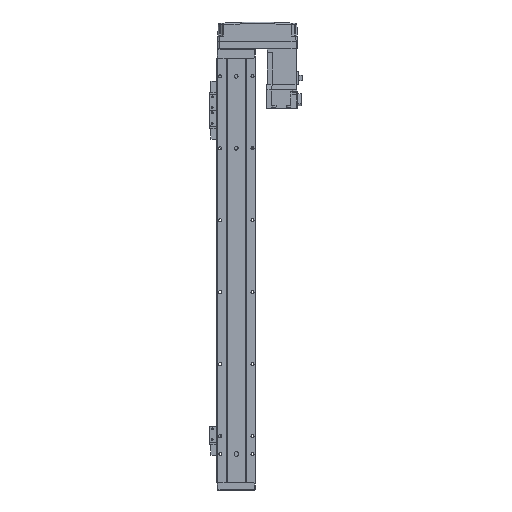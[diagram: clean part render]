
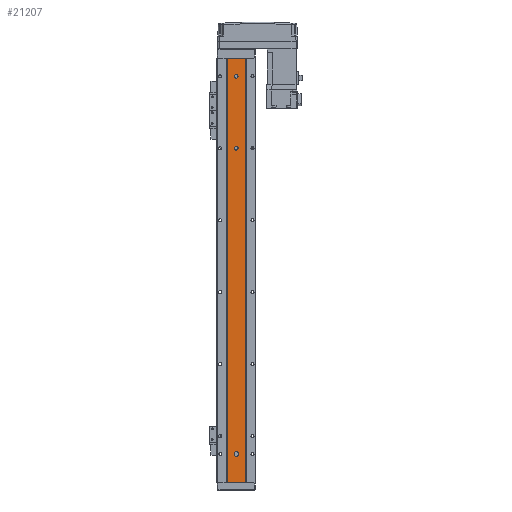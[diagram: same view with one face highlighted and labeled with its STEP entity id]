
A CAD part, front view. The second image highlights one B-rep face of the part: STEP entity #21207.
In plain terms, the highlighted planar face has unit normal (0, -1, 0).
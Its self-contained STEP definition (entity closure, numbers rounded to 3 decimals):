
#208 = CIRCLE ( 'NONE', #18674, 2.5 ) ;
#261 = ORIENTED_EDGE ( 'NONE', *, *, #20109, .F. ) ;
#453 = EDGE_LOOP ( 'NONE', ( #8826, #8861 ) ) ;
#1307 = VECTOR ( 'NONE', #26242, 1000. ) ;
#1444 = DIRECTION ( 'NONE',  ( 0., -1., 0. ) ) ;
#2133 = EDGE_CURVE ( 'NONE', #33654, #14683, #208, .T. ) ;
#2318 = DIRECTION ( 'NONE',  ( 1., 0., 0. ) ) ;
#2450 = DIRECTION ( 'NONE',  ( 1., 0., 0. ) ) ;
#2522 = CARTESIAN_POINT ( 'NONE',  ( 2.5, 1.5, -551. ) ) ;
#2628 = CIRCLE ( 'NONE', #4119, 2.5 ) ;
#3648 = VECTOR ( 'NONE', #5215, 1000. ) ;
#3676 = CARTESIAN_POINT ( 'NONE',  ( -12.293, 1.5, -590. ) ) ;
#4119 = AXIS2_PLACEMENT_3D ( 'NONE', #12793, #1444, #10222 ) ;
#4561 = VERTEX_POINT ( 'NONE', #16883 ) ;
#4896 = LINE ( 'NONE', #31437, #19442 ) ;
#5201 = CARTESIAN_POINT ( 'NONE',  ( 0., 1.5, -25. ) ) ;
#5215 = DIRECTION ( 'NONE',  ( 0., 0., 1. ) ) ;
#5289 = ORIENTED_EDGE ( 'NONE', *, *, #7137, .F. ) ;
#6349 = DIRECTION ( 'NONE',  ( 1., 0., 0. ) ) ;
#6707 = VERTEX_POINT ( 'NONE', #3676 ) ;
#6728 = EDGE_CURVE ( 'NONE', #6707, #7175, #7408, .T. ) ;
#7137 = EDGE_CURVE ( 'NONE', #22398, #16064, #22847, .T. ) ;
#7175 = VERTEX_POINT ( 'NONE', #25444 ) ;
#7232 = DIRECTION ( 'NONE',  ( 0., -1., 0. ) ) ;
#7408 = LINE ( 'NONE', #26634, #31114 ) ;
#7509 = FACE_BOUND ( 'NONE', #17061, .T. ) ;
#7698 = EDGE_LOOP ( 'NONE', ( #22768, #5289 ) ) ;
#8107 = LINE ( 'NONE', #32337, #1307 ) ;
#8775 = EDGE_CURVE ( 'NONE', #33684, #36894, #2628, .T. ) ;
#8826 = ORIENTED_EDGE ( 'NONE', *, *, #2133, .F. ) ;
#8861 = ORIENTED_EDGE ( 'NONE', *, *, #21273, .F. ) ;
#9180 = DIRECTION ( 'NONE',  ( 0., -1., 0. ) ) ;
#10192 = ORIENTED_EDGE ( 'NONE', *, *, #8775, .F. ) ;
#10222 = DIRECTION ( 'NONE',  ( 1., 0., 0. ) ) ;
#10961 = CARTESIAN_POINT ( 'NONE',  ( 2.5, 1.5, -590. ) ) ;
#11326 = CARTESIAN_POINT ( 'NONE',  ( 0., 1.5, -25. ) ) ;
#11815 = EDGE_CURVE ( 'NONE', #16064, #22398, #18191, .T. ) ;
#12793 = CARTESIAN_POINT ( 'NONE',  ( 0., 1.5, -551. ) ) ;
#13443 = ORIENTED_EDGE ( 'NONE', *, *, #28323, .F. ) ;
#13510 = CARTESIAN_POINT ( 'NONE',  ( 0., 1.5, -125. ) ) ;
#13811 = CIRCLE ( 'NONE', #23842, 2.5 ) ;
#13897 = DIRECTION ( 'NONE',  ( 0., 0., 1. ) ) ;
#13932 = CARTESIAN_POINT ( 'NONE',  ( 12.293, 1.5, -590. ) ) ;
#14683 = VERTEX_POINT ( 'NONE', #24393 ) ;
#15038 = VECTOR ( 'NONE', #13897, 1000. ) ;
#15792 = VECTOR ( 'NONE', #36405, 1000. ) ;
#16064 = VERTEX_POINT ( 'NONE', #33065 ) ;
#16883 = CARTESIAN_POINT ( 'NONE',  ( -12.293, 1.5, 0. ) ) ;
#16949 = CARTESIAN_POINT ( 'NONE',  ( -2.5, 1.5, -549. ) ) ;
#17061 = EDGE_LOOP ( 'NONE', ( #10192, #13443, #26694, #31686 ) ) ;
#17143 = DIRECTION ( 'NONE',  ( 1., 0., 0. ) ) ;
#17208 = AXIS2_PLACEMENT_3D ( 'NONE', #5201, #34439, #31662 ) ;
#17270 = CARTESIAN_POINT ( 'NONE',  ( -12.293, 1.5, -590. ) ) ;
#18191 = CIRCLE ( 'NONE', #33496, 2.5 ) ;
#18667 = LINE ( 'NONE', #10961, #15038 ) ;
#18674 = AXIS2_PLACEMENT_3D ( 'NONE', #13510, #7232, #33587 ) ;
#19116 = ORIENTED_EDGE ( 'NONE', *, *, #35558, .F. ) ;
#19339 = FACE_BOUND ( 'NONE', #7698, .T. ) ;
#19402 = VERTEX_POINT ( 'NONE', #25112 ) ;
#19442 = VECTOR ( 'NONE', #37036, 1000. ) ;
#19994 = EDGE_CURVE ( 'NONE', #7175, #19402, #37638, .T. ) ;
#20109 = EDGE_CURVE ( 'NONE', #4561, #19402, #4896, .T. ) ;
#20499 = LINE ( 'NONE', #17270, #3648 ) ;
#20750 = CARTESIAN_POINT ( 'NONE',  ( 0., 1.5, -549. ) ) ;
#21207 = ADVANCED_FACE ( 'NONE', ( #7509, #31659, #19339, #37091 ), #37075, .T. ) ;
#21273 = EDGE_CURVE ( 'NONE', #14683, #33654, #29816, .T. ) ;
#21878 = ORIENTED_EDGE ( 'NONE', *, *, #19994, .T. ) ;
#22398 = VERTEX_POINT ( 'NONE', #31245 ) ;
#22768 = ORIENTED_EDGE ( 'NONE', *, *, #11815, .F. ) ;
#22847 = CIRCLE ( 'NONE', #17208, 2.5 ) ;
#23842 = AXIS2_PLACEMENT_3D ( 'NONE', #20750, #9180, #6349 ) ;
#24291 = AXIS2_PLACEMENT_3D ( 'NONE', #13932, #31093, #2450 ) ;
#24393 = CARTESIAN_POINT ( 'NONE',  ( -2.5, 1.5, -125. ) ) ;
#25028 = VERTEX_POINT ( 'NONE', #26431 ) ;
#25112 = CARTESIAN_POINT ( 'NONE',  ( 12.293, 1.5, 0. ) ) ;
#25387 = VERTEX_POINT ( 'NONE', #16949 ) ;
#25444 = CARTESIAN_POINT ( 'NONE',  ( 12.293, 1.5, -590. ) ) ;
#25493 = ORIENTED_EDGE ( 'NONE', *, *, #6728, .T. ) ;
#25729 = CARTESIAN_POINT ( 'NONE',  ( 0., 1.5, -125. ) ) ;
#26242 = DIRECTION ( 'NONE',  ( 0., 0., -1. ) ) ;
#26431 = CARTESIAN_POINT ( 'NONE',  ( 2.5, 1.5, -549. ) ) ;
#26634 = CARTESIAN_POINT ( 'NONE',  ( 12.293, 1.5, -590. ) ) ;
#26694 = ORIENTED_EDGE ( 'NONE', *, *, #30986, .F. ) ;
#27882 = CARTESIAN_POINT ( 'NONE',  ( 12.293, 1.5, -590. ) ) ;
#28318 = CARTESIAN_POINT ( 'NONE',  ( 2.5, 1.5, -125. ) ) ;
#28323 = EDGE_CURVE ( 'NONE', #25387, #33684, #8107, .T. ) ;
#29627 = DIRECTION ( 'NONE',  ( 1., 0., 0. ) ) ;
#29816 = CIRCLE ( 'NONE', #32093, 2.5 ) ;
#30986 = EDGE_CURVE ( 'NONE', #25028, #25387, #13811, .T. ) ;
#31093 = DIRECTION ( 'NONE',  ( 0., -1., 0. ) ) ;
#31113 = CARTESIAN_POINT ( 'NONE',  ( -2.5, 1.5, -551. ) ) ;
#31114 = VECTOR ( 'NONE', #29627, 1000. ) ;
#31245 = CARTESIAN_POINT ( 'NONE',  ( -2.5, 1.5, -25. ) ) ;
#31437 = CARTESIAN_POINT ( 'NONE',  ( 12.293, 1.5, 0. ) ) ;
#31467 = DIRECTION ( 'NONE',  ( 0., -1., 0. ) ) ;
#31659 = FACE_BOUND ( 'NONE', #453, .T. ) ;
#31662 = DIRECTION ( 'NONE',  ( 1., 0., 0. ) ) ;
#31686 = ORIENTED_EDGE ( 'NONE', *, *, #37016, .F. ) ;
#32093 = AXIS2_PLACEMENT_3D ( 'NONE', #25729, #31467, #2318 ) ;
#32337 = CARTESIAN_POINT ( 'NONE',  ( -2.5, 1.5, -590. ) ) ;
#33065 = CARTESIAN_POINT ( 'NONE',  ( 2.5, 1.5, -25. ) ) ;
#33496 = AXIS2_PLACEMENT_3D ( 'NONE', #11326, #34334, #17143 ) ;
#33587 = DIRECTION ( 'NONE',  ( 1., 0., 0. ) ) ;
#33654 = VERTEX_POINT ( 'NONE', #28318 ) ;
#33684 = VERTEX_POINT ( 'NONE', #31113 ) ;
#34334 = DIRECTION ( 'NONE',  ( 0., -1., 0. ) ) ;
#34439 = DIRECTION ( 'NONE',  ( 0., -1., 0. ) ) ;
#35558 = EDGE_CURVE ( 'NONE', #6707, #4561, #20499, .T. ) ;
#36405 = DIRECTION ( 'NONE',  ( 0., 0., 1. ) ) ;
#36894 = VERTEX_POINT ( 'NONE', #2522 ) ;
#37016 = EDGE_CURVE ( 'NONE', #36894, #25028, #18667, .T. ) ;
#37036 = DIRECTION ( 'NONE',  ( 1., 0., 0. ) ) ;
#37075 = PLANE ( 'NONE',  #24291 ) ;
#37091 = FACE_OUTER_BOUND ( 'NONE', #37566, .T. ) ;
#37566 = EDGE_LOOP ( 'NONE', ( #261, #19116, #25493, #21878 ) ) ;
#37638 = LINE ( 'NONE', #27882, #15792 ) ;
